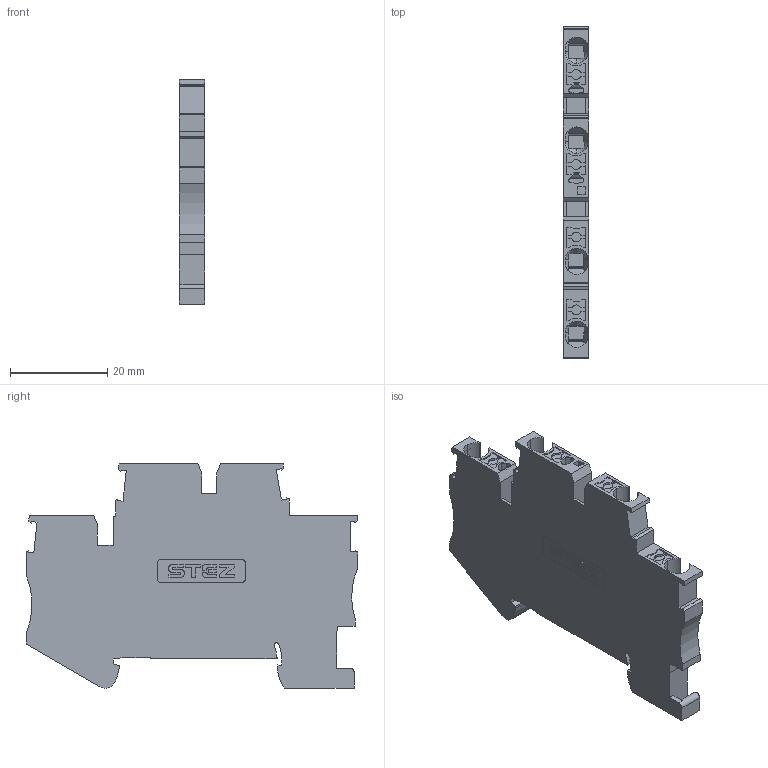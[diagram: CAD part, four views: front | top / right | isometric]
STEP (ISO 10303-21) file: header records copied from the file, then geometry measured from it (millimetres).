
FILE_DESCRIPTION(('TFLEX Exchange Step'),'2;1');
FILE_NAME('14100011_КНБ_2,5-2У-С.stp', '2025-06-24T11:03:54+03:00',('MVarava'),('Unknown organisation'),'TFLEX Exchange 2023.0','T-FLEX CAD','Unknown authorisation');
FILE_SCHEMA( ('AUTOMOTIVE_DESIGN { 1 0 10303 214 1 1 1 1 }') );
Length unit declared in the file: millimetre
Products named in the file (1): Nodes
Bounding box: 5.15 x 68.2 x 46.06 mm (x, y, z)
Volume: 10815.4 mm3; surface area: 7506.4 mm2
Topology: 1 solids, 1 shells, 521 faces, 1530 edges, 1025 vertices
Faces by surface type: plane 291, cylinder 208, torus 8, cone 8, extrusion 6
Entity records: 17931 total; most frequent: CARTESIAN_POINT 4014, ORIENTED_EDGE 3060, DIRECTION 2747, EDGE_CURVE 1530, VERTEX_POINT 1025, VECTOR 931, LINE 925, AXIS2_PLACEMENT_3D 908
